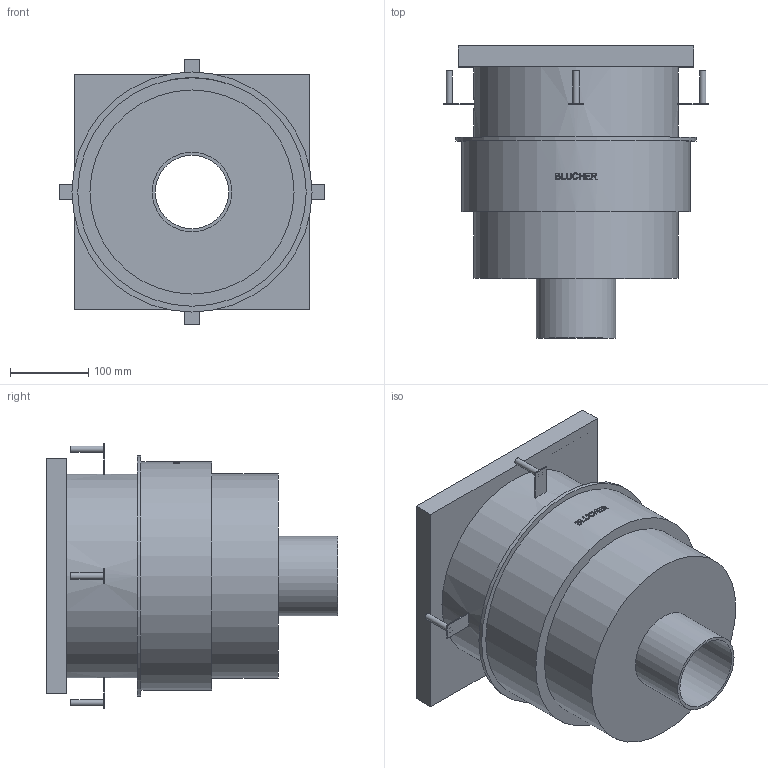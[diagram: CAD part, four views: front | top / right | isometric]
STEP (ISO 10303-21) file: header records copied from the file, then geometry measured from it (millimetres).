
FILE_DESCRIPTION((''),'2;1');
FILE_NAME('C:\Drawings\3D_CAD_Models\Blucher\BFD_Floor Drains_Complete_091119\BFD-200\WebsiteFiles\3D\STEP\BFD-234.stp','2009-11-29T10:34:12',('hofmansp'),(''),'Autodesk Inventor 2010','Autodesk Inventor 2010','');
FILE_SCHEMA(('AUTOMOTIVE_DESIGN { 1 0 10303 214 1 1 1 1 }'));
Length unit declared in the file: inch
Products named in the file (1): BFD-234
Bounding box: 337.09 x 372 x 337.09 mm (x, y, z)
Volume: 2943882.2 mm3; surface area: 765648.5 mm2
Topology: 1 solids, 1 shells, 150 faces, 374 edges, 250 vertices
Faces by surface type: plane 95, bspline 34, cylinder 21
Full cylindrical faces by diameter (mm): 8 x4, 93.6 x1, 101.6 x1, 252 x1, 260 x2, 291 x1, 306 x1
Entity records: 15198 total; most frequent: CARTESIAN_POINT 11906, ORIENTED_EDGE 716, DIRECTION 544, EDGE_CURVE 358, VERTEX_POINT 246, EDGE_LOOP 188, AXIS2_PLACEMENT_3D 182, VECTOR 180
